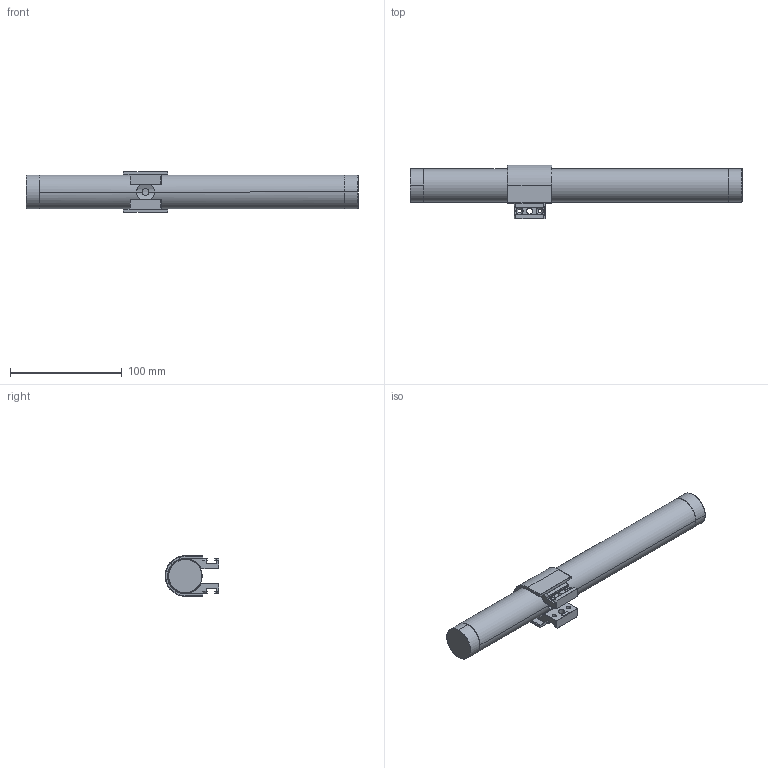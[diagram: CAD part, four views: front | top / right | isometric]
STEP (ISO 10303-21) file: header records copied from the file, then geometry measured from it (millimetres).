
FILE_DESCRIPTION (( 'STEP AP214' ), '1' );
FILE_NAME ('ACTUXXXXXXMI1XX.STEP', '2023-08-29T07:36:10', ( '' ), ( '' ), 'SwSTEP 2.0', 'SolidWorks 2023', '' );
FILE_SCHEMA (( 'AUTOMOTIVE_DESIGN' ));
Length unit declared in the file: millimetre
Products named in the file (5): WSCP2E0012-1400-01; WSCP2E0004-1400-02; WSCP2E0048-1400-00; WSVBPAR027325XX-00; ACTUXXXXXXMI1XX
Assembly tree (4 placements, depth 2):
  ACTUXXXXXXMI1XX
    WSVBPAR027325XX-00
    WSCP2E0004-1400-02
    WSCP2E0012-1400-01
    WSCP2E0048-1400-00
Bounding box: 297 x 48.15 x 36.2 mm (x, y, z)
Volume: 96464.5 mm3; surface area: 65604.1 mm2
Topology: 4 solids, 4 shells, 1681 faces, 3890 edges, 2096 vertices
Faces by surface type: bspline 780, cylinder 688, plane 203, cone 10
Entity records: 58313 total; most frequent: CARTESIAN_POINT 24546, ORIENTED_EDGE 7536, DIRECTION 6652, EDGE_CURVE 3768, AXIS2_PLACEMENT_3D 2722, VERTEX_POINT 2096, CIRCLE 1814, EDGE_LOOP 1700
